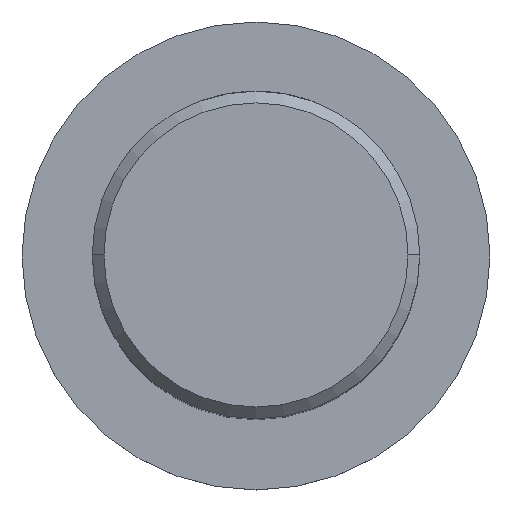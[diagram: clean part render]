
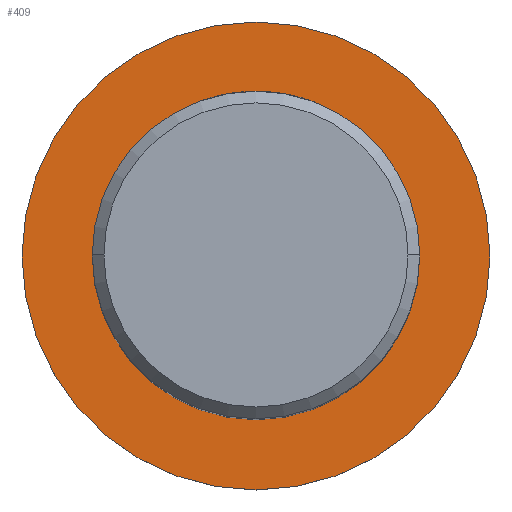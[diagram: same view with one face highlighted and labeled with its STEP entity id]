
A CAD part, top view. The second image highlights one B-rep face of the part: STEP entity #409.
In plain terms, the highlighted planar face has unit normal (0, 0, 1).
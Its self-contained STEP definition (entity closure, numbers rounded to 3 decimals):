
#72=CARTESIAN_POINT('',(0.,-7.,0.));
#73=DIRECTION('',(0.,0.,1.));
#74=DIRECTION('',(1.,0.,0.));
#75=AXIS2_PLACEMENT_3D('',#72,#73,#74);
#120=CARTESIAN_POINT('',(0.,-7.,0.));
#121=DIRECTION('',(0.,0.,1.));
#122=DIRECTION('',(-1.,0.,0.));
#123=AXIS2_PLACEMENT_3D('',#120,#121,#122);
#129=CARTESIAN_POINT('',(0.,-7.,0.));
#130=DIRECTION('',(0.,0.,-1.));
#131=DIRECTION('',(-1.,0.,0.));
#132=AXIS2_PLACEMENT_3D('',#129,#130,#131);
#134=CARTESIAN_POINT('',(0.,-7.,0.));
#135=DIRECTION('',(0.,0.,-1.));
#136=DIRECTION('',(1.,0.,0.));
#137=AXIS2_PLACEMENT_3D('',#134,#135,#136);
#216=CARTESIAN_POINT('',(-10.,-7.,0.));
#217=CARTESIAN_POINT('',(10.,-7.,0.));
#218=VERTEX_POINT('',#216);
#219=VERTEX_POINT('',#217);
#224=CARTESIAN_POINT('',(7.,-7.,0.));
#225=CARTESIAN_POINT('',(-7.,-7.,0.));
#226=VERTEX_POINT('',#224);
#227=VERTEX_POINT('',#225);
#394=CARTESIAN_POINT('',(0.,0.,0.));
#395=DIRECTION('',(0.,0.,-1.));
#396=DIRECTION('',(-1.,0.,0.));
#397=AXIS2_PLACEMENT_3D('',#394,#395,#396);
#398=PLANE('',#397);
#400=ORIENTED_EDGE('',*,*,#399,.T.);
#402=ORIENTED_EDGE('',*,*,#401,.T.);
#403=EDGE_LOOP('',(#400,#402));
#404=FACE_OUTER_BOUND('',#403,.F.);
#405=ORIENTED_EDGE('',*,*,#296,.T.);
#406=ORIENTED_EDGE('',*,*,#388,.T.);
#407=EDGE_LOOP('',(#405,#406));
#408=FACE_BOUND('',#407,.F.);
#76=CIRCLE('',#75,7.);
#124=CIRCLE('',#123,7.);
#133=CIRCLE('',#132,10.);
#138=CIRCLE('',#137,10.);
#296=EDGE_CURVE('',#226,#227,#76,.T.);
#388=EDGE_CURVE('',#227,#226,#124,.T.);
#399=EDGE_CURVE('',#218,#219,#133,.T.);
#401=EDGE_CURVE('',#219,#218,#138,.T.);
#409=ADVANCED_FACE('',(#404,#408),#398,.F.);
